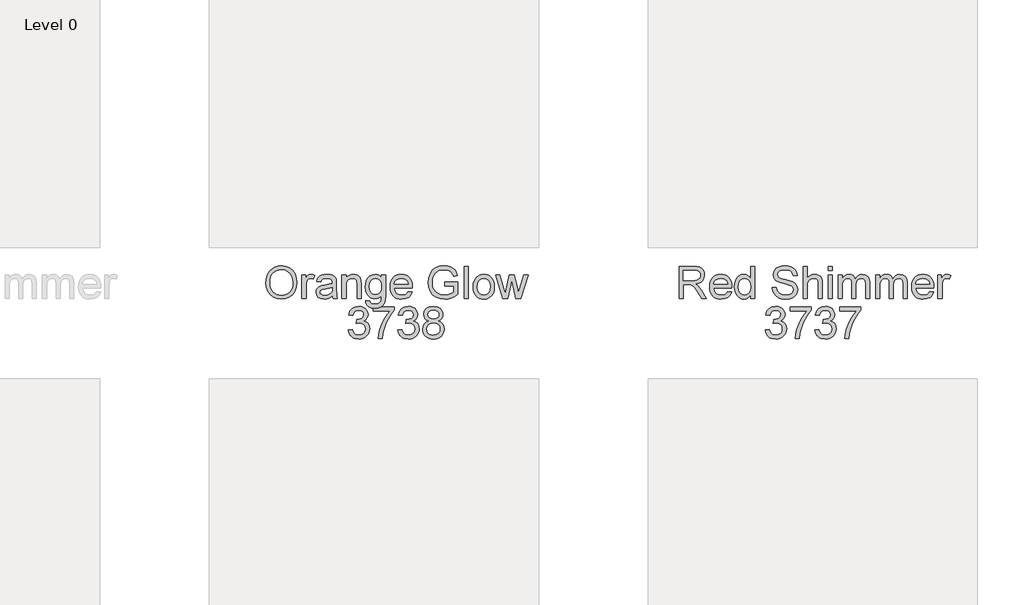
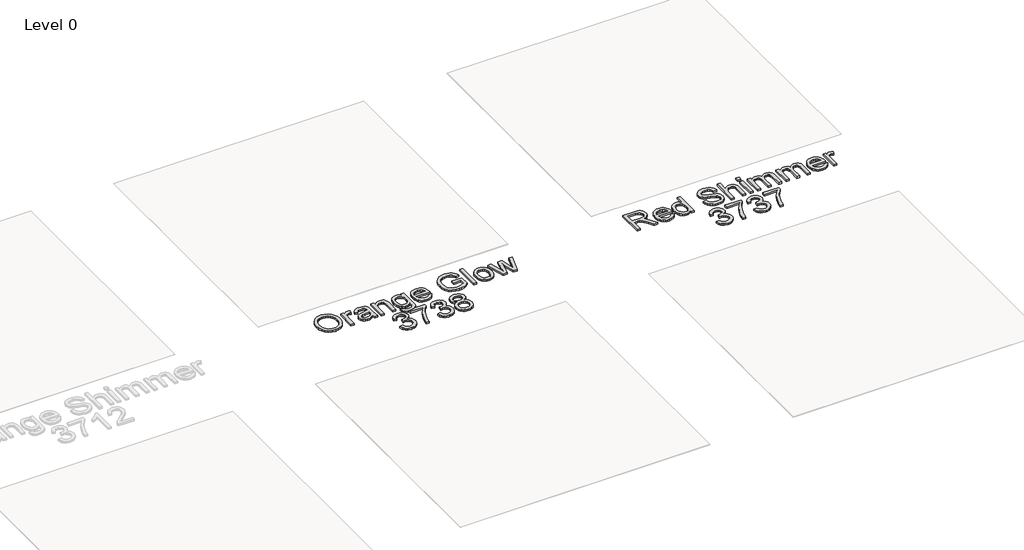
# One storey, part 14 of 14: 2 proxies.
"""IFC4 building model written with IfcOpenShell, lengths in millimetres."""

import ifcopenshell
import ifcopenshell.guid

model = None  # the IFC model being written
_history = None  # IfcOwnerHistory: only IFC2X3 demands one
_inside = {}  # id of a spatial element -> (the spatial element, [elements in it])
_under = {}  # id of a project, library or spatial element -> (it, [spatial elements below it])
_declared = {}  # id of a project -> (the project, [libraries it declares])
_typed = {}  # id of a type object -> (the type object, [elements of that type])
_made_of = {}  # id of a material, layer set ... -> (it, [elements and type objects made of it])


def new_model(schema):
    """Start an empty IFC model of exactly this schema.

    Asked for "IFC4X3", IfcOpenShell would pick the latest addendum, in which some entities
    have other attributes; the version numbers below select the first issue.
    IFC2X3 requires an IfcOwnerHistory on every rooted entity: one is made here for all.
    """
    global model, _history
    if schema == "IFC4X3":
        model = ifcopenshell.file(schema_version=(4, 3, 0, 0))
    else:
        model = ifcopenshell.file(schema=schema)
    _inside.clear()
    _under.clear()
    _declared.clear()
    _typed.clear()
    _made_of.clear()
    _history = None
    if model.schema == "IFC2X3":
        org = make("IfcOrganization", Name="unknown")
        user = make(
            "IfcPersonAndOrganization",
            ThePerson=make("IfcPerson", FamilyName="unknown"),
            TheOrganization=org,
        )
        app = make(
            "IfcApplication",
            ApplicationDeveloper=org,
            Version="unknown",
            ApplicationFullName="unknown",
            ApplicationIdentifier="unknown",
        )
        _history = make(
            "IfcOwnerHistory",
            OwningUser=user,
            OwningApplication=app,
            ChangeAction="ADDED",
            CreationDate=0,
        )
    return model


def make(cls, **values):
    """One entity of the class cls with the attributes given. An attribute that is None is left unset."""
    return model.create_entity(
        cls, **{name: value for name, value in values.items() if value is not None}
    )


def rooted(cls, **values):
    """An entity with a GlobalId (a new one), such as an element, a storey or a relation."""
    return make(cls, GlobalId=ifcopenshell.guid.new(), OwnerHistory=_history, **values)


def si_unit(unit_type, name, prefix=None):
    """IfcSIUnit, for example si_unit("LENGTHUNIT", "METRE", prefix="MILLI")."""
    return make("IfcSIUnit", UnitType=unit_type, Prefix=prefix, Name=name)


def assignment(units):
    """IfcUnitAssignment: the units of a project."""
    return None if units is None else make("IfcUnitAssignment", Units=units)


def point(xyz):
    """IfcCartesianPoint."""
    return None if xyz is None else make("IfcCartesianPoint", Coordinates=xyz)


def direction(xyz):
    """IfcDirection."""
    return None if xyz is None else make("IfcDirection", DirectionRatios=xyz)


def frame(location, z_axis=None, x_axis=None):
    """IfcAxis2Placement3D, a coordinate frame: its origin and axes. An axis left out is left unset."""
    return make(
        "IfcAxis2Placement3D",
        Location=point(location),
        Axis=direction(z_axis),
        RefDirection=direction(x_axis),
    )


def origin():
    """The frame at (0, 0, 0) with its axes left unset."""
    return frame((0.0, 0.0, 0.0))


def origin_with_axes():
    """The frame at (0, 0, 0) with the z axis (0, 0, 1) and the x axis (1, 0, 0) written out."""
    return frame((0.0, 0.0, 0.0), z_axis=(0.0, 0.0, 1.0), x_axis=(1.0, 0.0, 0.0))


def place(relative_to, where):
    """IfcLocalPlacement: puts the frame where relative to a parent placement (None: the world)."""
    return make(
        "IfcLocalPlacement", PlacementRelTo=relative_to, RelativePlacement=where
    )


def context(
    kind, dimensions, precision=None, world=None, true_north=None, identifier=None
):
    """IfcGeometricRepresentationContext, for example the 3D "Model" context."""
    return make(
        "IfcGeometricRepresentationContext",
        ContextIdentifier=identifier,
        ContextType=kind,
        CoordinateSpaceDimension=dimensions,
        Precision=precision,
        WorldCoordinateSystem=world,
        TrueNorth=true_north,
    )


def project(units=None, contexts=None):
    """IfcProject with its units and contexts."""
    return rooted(
        "IfcProject",
        Name="project",
        RepresentationContexts=contexts,
        UnitsInContext=assignment(units),
    )


def spatial(cls, under=None, at=None, **own):
    """A site, building, storey or space (cls), placed at a placement, below another one or the project."""
    s = rooted(cls, ObjectPlacement=at, **own)
    if under is not None:
        _under.setdefault(under.id(), (under, []))[1].append(s)
    return s


def polyline(points):
    """IfcPolyline through the points."""
    return make("IfcPolyline", Points=[point(p) for p in points])


def outline(outer, holes=None, kind="AREA"):
    """IfcArbitraryClosedProfileDef: a profile drawn as a closed curve; with holes, ...WithVoids."""
    if holes is None:
        return make("IfcArbitraryClosedProfileDef", ProfileType=kind, OuterCurve=outer)
    return make(
        "IfcArbitraryProfileDefWithVoids",
        ProfileType=kind,
        OuterCurve=outer,
        InnerCurves=holes,
    )


def extrude(swept, where, along, depth):
    """IfcExtrudedAreaSolid: the profile swept, set in the frame where, extruded along a direction by depth."""
    return make(
        "IfcExtrudedAreaSolid",
        SweptArea=swept,
        Position=where,
        ExtrudedDirection=direction(along),
        Depth=depth,
    )


def shape(context_of_items, identifier, shape_type, items):
    """IfcShapeRepresentation: the items that make up one representation, for example the "Body"."""
    return make(
        "IfcShapeRepresentation",
        ContextOfItems=context_of_items,
        RepresentationIdentifier=identifier,
        RepresentationType=shape_type,
        Items=items,
    )


def made_of(thing, what):
    """Note that an element or type object is made of a material, layer set ...; save() writes the relation."""
    if what is not None:
        _made_of.setdefault(what.id(), (what, []))[1].append(thing)
    return thing


def element(
    cls,
    number,
    at=None,
    inside=None,
    cuts=None,
    type_object=None,
    material=None,
    context=None,
    identifier="Body",
    shape_type=None,
    held_by="IfcProductDefinitionShape",
    body=None,
    shapes=None,
    **own,
):
    """One element of the class cls, such as IfcWall. Its Tag is "e" and its number.

    at: its placement. inside: the storey or other place that contains it. cuts: it is an
    opening in that element (IfcRelVoidsElement). A single representation is given by context,
    identifier, shape_type and body (its items); several are given by shapes. held_by: the class
    of the entity that holds the representations. save() writes the other relations.
    """
    e = rooted(cls, Tag="e%d" % number, ObjectPlacement=at, **own)
    if body is not None:
        shapes = [shape(context, identifier, shape_type, body)]
    if shapes is not None:
        e.Representation = make(held_by, Representations=shapes)
    if inside is not None:
        _inside.setdefault(inside.id(), (inside, []))[1].append(e)
    if cuts is not None:
        rooted(
            "IfcRelVoidsElement", RelatingBuildingElement=cuts, RelatedOpeningElement=e
        )
    if type_object is not None:
        _typed.setdefault(type_object.id(), (type_object, []))[1].append(e)
    return made_of(e, material)


def aggregate(whole, parts):
    """IfcRelAggregates: a whole, such as a stair, and the parts it consists of."""
    return rooted("IfcRelAggregates", RelatingObject=whole, RelatedObjects=parts)


def save(model, path):
    """Write the relations noted so far, then the file.

    IfcRelAggregates (storeys below a building ...), IfcRelContainedInSpatialStructure (elements
    in a storey), IfcRelDefinesByType, IfcRelAssociatesMaterial and IfcRelDeclares: one each for
    every whole, place, type object, material and project.
    """
    for whole, parts in _under.values():
        aggregate(whole, parts)
    for where, things in _inside.values():
        rooted(
            "IfcRelContainedInSpatialStructure",
            RelatedElements=things,
            RelatingStructure=where,
        )
    for kind, things in _typed.values():
        rooted("IfcRelDefinesByType", RelatedObjects=things, RelatingType=kind)
    for what, things in _made_of.values():
        rooted("IfcRelAssociatesMaterial", RelatedObjects=things, RelatingMaterial=what)
    for by, libraries in _declared.values():
        rooted("IfcRelDeclares", RelatingContext=by, RelatedDefinitions=libraries)
    model.write(path)


model = new_model("IFC4")

# Units and contexts
model_context = context("Model", 3, world=origin())
ifc_project = project(units=[si_unit("LENGTHUNIT", "METRE", prefix="MILLI")], contexts=[model_context])

# Site, building, storey
site = spatial("IfcSite", under=ifc_project)
building = spatial("IfcBuilding", under=site)
storey = spatial("IfcBuildingStorey", under=building, Name="Level 0", Elevation=0.0)

# Proxies
placement = place(None, origin())
element("IfcBuildingElementProxy", 1, Name="300mm Arial", ObjectType="300mm Arial", at=placement, inside=storey, context=model_context, shape_type="SweptSolid", body=[
    extrude(outline(polyline([(3063.8093506, 2206.6250591), (3066.2702881, 2241.2719942), (3073.6531006, 2271.9435687), (3085.9577881, 2298.6397826), (3103.1843506, 2321.360636), (3124.3006366, 2339.5021624), (3148.2744948, 2352.4603956), (3175.1059251, 2360.2353355), (3204.7949275, 2362.8269821), (3243.5389179, 2357.9591937), (3278.2805044, 2343.3558283), (3307.1266583, 2320.0445302), (3328.1843506, 2289.0529437), (3341.0569467, 2251.8774629), (3345.3478121, 2210.0144821), (3340.8315861, 2167.5926071), (3327.2829083, 2129.8942898), (3305.4499756, 2098.8486168), (3276.0809852, 2076.3846745), (3241.6368746, 2062.7548668), (3204.5785813, 2058.2115975), (3165.239639, 2063.2326312), (3130.2997352, 2078.2957321), (3101.5256967, 2102.0397225), (3080.6843506, 2133.1034245), (3068.0281006, 2168.845612), (3063.8093506, 2206.6250591)]), holes=[polyline([(3100.7324275, 2206.2644821), (3102.5781306, 2181.7858163), (3108.11524, 2160.0565495), (3117.3437556, 2141.0766817), (3130.2636775, 2124.8462129), (3145.9690561, 2111.8474148), (3163.5539419, 2102.5625591), (3183.0183349, 2096.9916456), (3204.3622352, 2095.1346745), (3226.0712196, 2097.0096745), (3245.7654804, 2102.6346745), (3263.4450176, 2112.0096745), (3279.1098313, 2125.1346745), (3291.9351018, 2141.7076913), (3301.0960092, 2161.4267418), (3306.5925537, 2184.2918259), (3308.4247352, 2210.3029437), (3305.287716, 2242.9892418), (3295.8766583, 2271.2404437), (3280.4349515, 2294.34441), (3259.2059852, 2311.5890014), (3233.5960092, 2322.3251793), (3205.0112736, 2325.9039052), (3184.4088097, 2324.1798968), (3165.2937256, 2319.0078716), (3147.6660212, 2310.3878295), (3131.5256967, 2298.3197706), (3118.0536414, 2282.2222646), (3108.4307448, 2261.5138812), (3102.6570068, 2236.1946204), (3100.7324275, 2206.2644821)])]), origin_with_axes(), (0.0, 0.0, 1.0), 20.0),
    extrude(outline(polyline([(3391.5016583, 2062.8269821), (3391.5016583, 2279.7500591), (3423.8093506, 2279.7500591), (3423.8093506, 2247.6587129), (3435.7444467, 2266.2644821), (3446.7420429, 2277.2260206), (3457.7756967, 2282.5805879), (3469.818966, 2284.3654437), (3488.208389, 2281.516886), (3506.8862736, 2272.9712129), (3494.5545429, 2239.8702514), (3481.5737736, 2245.5493379), (3468.5930044, 2247.4423668), (3457.568365, 2245.6214533), (3447.7156006, 2240.1587129), (3439.755865, 2231.4688091), (3434.4103121, 2219.9664052), (3429.9211294, 2199.3414052), (3428.4247352, 2176.8414052), (3428.4247352, 2062.8269821), (3391.5016583, 2062.8269821)])), origin_with_axes(), (0.0, 0.0, 1.0), 20.0),
    extrude(outline(polyline([(3668.4247352, 2090.5192898), (3650.7835092, 2075.3930879), (3632.6194467, 2065.4952514), (3613.5178842, 2060.032511), (3593.0641583, 2058.2115975), (3562.2077881, 2062.5926071), (3539.4463698, 2075.735636), (3525.4109131, 2095.6935687), (3520.7324275, 2120.5192898), (3522.4992544, 2135.8257802), (3527.7997352, 2149.7260206), (3535.9758169, 2161.6250591), (3546.3694467, 2170.9279437), (3572.2228121, 2183.0433283), (3604.1699275, 2188.5962129), (3641.9223313, 2194.4375591), (3668.208389, 2201.2885206), (3668.4247352, 2209.5096745), (3665.8826679, 2225.9880398), (3658.256466, 2236.7692898), (3641.2011775, 2244.7740975), (3617.4391583, 2247.4423668), (3595.443966, 2245.6665254), (3580.083389, 2240.3390014), (3569.6086294, 2230.486237), (3562.270889, 2215.1346745), (3525.3478121, 2219.7500591), (3531.7570669, 2239.9423668), (3541.3213698, 2255.8077514), (3554.9331486, 2267.9411648), (3573.4848313, 2276.9375591), (3596.1741342, 2282.5084725), (3622.1987736, 2284.3654437), (3647.1597111, 2282.7248187), (3666.9463698, 2277.8029437), (3681.86524, 2270.4021023), (3692.2228121, 2261.3245783), (3699.0918025, 2250.1016216), (3703.5449275, 2236.2644821), (3705.3478121, 2203.9567898), (3705.3478121, 2158.0192898), (3707.2228121, 2093.8726552), (3714.5785813, 2062.8269821), (3677.6555044, 2062.8269821), (3668.4247352, 2090.5192898)]), holes=[polyline([(3668.4247352, 2164.3654437), (3608.8574275, 2153.0433283), (3577.0906006, 2147.0577514), (3562.7035813, 2137.3221745), (3557.6555044, 2123.1154437), (3560.4049035, 2112.1358764), (3568.6531006, 2103.1394821), (3582.2198073, 2097.1358764), (3600.9247352, 2095.1346745), (3620.756466, 2097.3432081), (3638.2805044, 2103.9688091), (3652.4872352, 2113.7314293), (3662.3670429, 2125.3510206), (3666.7480525, 2137.3221745), (3668.208389, 2153.9087129), (3668.4247352, 2164.3654437)])]), origin_with_axes(), (0.0, 0.0, 1.0), 20.0),
    extrude(outline(polyline([(3756.1170429, 2062.8269821), (3756.1170429, 2279.7500591), (3793.0401198, 2279.7500591), (3793.0401198, 2249.4615975), (3805.8676438, 2264.7320302), (3821.2732929, 2275.6394821), (3839.2570669, 2282.1839533), (3859.818966, 2284.3654437), (3878.0190861, 2282.6076312), (3894.6867544, 2277.3341937), (3908.5869948, 2269.2031841), (3918.4848313, 2258.8726552), (3929.5545429, 2231.7212129), (3931.5016583, 2196.0240975), (3931.5016583, 2062.8269821), (3894.5785813, 2062.8269821), (3894.5785813, 2191.048136), (3890.3237736, 2223.7164052), (3884.4373554, 2233.4429677), (3875.287716, 2240.9880398), (3863.5599515, 2245.828785), (3849.9391583, 2247.4423668), (3828.3135573, 2243.8185687), (3809.8790621, 2232.9471745), (3802.5120248, 2224.0724749), (3797.2498554, 2211.9435687), (3793.0401198, 2177.923136), (3793.0401198, 2062.8269821), (3756.1170429, 2062.8269821)])), origin_with_axes(), (0.0, 0.0, 1.0), 20.0),
    extrude(outline(polyline([(3973.0401198, 2044.3654437), (4009.9631967, 2039.7500591), (4014.037716, 2028.2115975), (4021.9343506, 2020.2789052), (4037.4571871, 2014.1130398), (4057.7756967, 2012.0577514), (4079.4463698, 2014.3834725), (4095.5641583, 2021.360636), (4106.7420429, 2032.5385206), (4113.5930044, 2047.4664052), (4116.1170429, 2090.5192898), (4103.8303842, 2078.4039052), (4090.1194467, 2069.7500591), (4074.9842304, 2064.5577514), (4058.4247352, 2062.8269821), (4038.1805946, 2064.8417057), (4020.3568265, 2070.8858764), (4004.9534311, 2080.9594942), (3991.9704083, 2095.0625591), (3981.6691763, 2111.9826312), (3974.3111535, 2130.5072706), (3968.4247352, 2172.3702514), (3971.0659611, 2202.1809485), (3978.989639, 2229.5938091), (3991.9163217, 2252.8239773), (4009.5665621, 2270.0865975), (4031.3363938, 2280.7957321), (4056.6218506, 2284.3654437), (4073.888978, 2282.3462129), (4089.5605525, 2276.2885206), (4103.6365741, 2266.1923668), (4116.1170429, 2252.0577514), (4116.1170429, 2279.7500591), (4153.0401198, 2279.7500591), (4153.0401198, 2092.4664052), (4150.5160813, 2049.2242177), (4142.943966, 2020.7476552), (4129.9000958, 2001.8624389), (4110.9607929, 1987.3942898), (4086.5407208, 1978.1995783), (4057.0545429, 1975.1346745), (4022.7005765, 1979.4525831), (3995.6482929, 1992.4063091), (3985.4597412, 2002.130618), (3978.2955285, 2014.03191), (3974.1556547, 2028.1101853), (3973.0401198, 2044.3654437)]), holes=[polyline([(4005.3478121, 2174.8942898), (4009.287115, 2141.0271023), (4021.1050236, 2117.7428475), (4038.8724515, 2104.2482562), (4060.6603121, 2099.7500591), (4082.2859131, 2104.2212129), (4100.1434852, 2117.6346745), (4112.1236535, 2140.6214533), (4116.1170429, 2173.8125591), (4112.006466, 2205.8227754), (4099.6747352, 2228.8726552), (4081.5557448, 2242.7999389), (4060.083389, 2247.4423668), (4038.9986535, 2242.8720543), (4021.3213698, 2229.1611168), (4009.3412015, 2206.453785), (4005.3478121, 2174.8942898)])]), origin_with_axes(), (0.0, 0.0, 1.0), 20.0),
    extrude(outline(polyline([(4360.2997352, 2127.4423668), (4396.5016583, 2122.8269821), (4383.4577881, 2095.5493379), (4362.6434852, 2075.1587129), (4334.5274996, 2062.4483764), (4299.5785813, 2058.2115975), (4276.6684251, 2060.0392718), (4256.255264, 2065.5222946), (4238.3390982, 2074.660666), (4222.9199275, 2087.454386), (4210.5205886, 2103.5473848), (4201.6639179, 2122.5835927), (4196.3499155, 2144.5630098), (4194.5785813, 2169.485636), (4196.3679443, 2195.2533644), (4201.7360333, 2217.9652033), (4210.6828482, 2237.6211528), (4223.208389, 2254.2212129), (4238.5869948, 2267.4093139), (4256.0930044, 2276.829386), (4275.7264179, 2282.4814293), (4297.4872352, 2284.3654437), (4318.5471811, 2282.4859365), (4337.5924035, 2276.8474148), (4354.6229023, 2267.4498788), (4369.6386775, 2254.2933283), (4381.8960393, 2237.7293259), (4390.6512977, 2218.1094341), (4395.9044527, 2195.4336528), (4397.6555044, 2169.7019821), (4397.4391583, 2159.7500591), (4231.5016583, 2159.7500591), (4237.8928842, 2132.1118379), (4252.739639, 2111.7933283), (4274.1669227, 2099.2993379), (4300.2997352, 2095.1346745), (4319.9511775, 2097.063761), (4336.5016583, 2102.8510206), (4349.9511775, 2112.8570302), (4360.2997352, 2127.4423668)]), holes=[polyline([(4231.5016583, 2196.673136), (4360.7324275, 2196.673136), (4355.7384371, 2216.1803475), (4345.9487736, 2230.1346745), (4324.4223313, 2243.1154437), (4297.3430044, 2247.4423668), (4272.4541823, 2243.9898427), (4251.8742544, 2233.6322706), (4237.568365, 2217.4874389), (4231.5016583, 2196.673136)])]), origin_with_axes(), (0.0, 0.0, 1.0), 20.0),
    extrude(outline(polyline([(4693.0401198, 2178.2115975), (4693.0401198, 2215.1346745), (4813.0401198, 2215.1346745), (4813.0401198, 2104.7260206), (4783.8784611, 2084.4435687), (4753.7973313, 2069.8942898), (4722.8688458, 2061.1322706), (4691.1651198, 2058.2115975), (4649.7438458, 2062.8540254), (4612.3069467, 2076.7813091), (4581.2071871, 2099.5066696), (4558.7973313, 2130.5433283), (4545.2486535, 2167.7728956), (4540.7324275, 2209.0769821), (4545.2306246, 2250.6785446), (4558.725216, 2289.3774629), (4580.6573073, 2321.8384004), (4610.4680044, 2344.7260206), (4646.7781006, 2358.3017418), (4688.208389, 2362.8269821), (4718.6230525, 2360.203785), (4745.9728121, 2352.3341937), (4769.0046631, 2339.7861168), (4786.4656006, 2323.1274629), (4799.3832688, 2301.5559485), (4808.7853121, 2274.2692898), (4774.7468506, 2264.6779437), (4767.1476919, 2284.1400831), (4757.9079083, 2298.8245783), (4745.6843506, 2309.8942898), (4729.1338698, 2318.5120783), (4709.4012977, 2324.0559485), (4687.631466, 2325.9039052), (4662.1476919, 2323.9117177), (4640.3598313, 2317.9351552), (4622.349014, 2308.7224148), (4608.1963698, 2297.0216937), (4589.193966, 2268.5721745), (4580.5401198, 2240.6995783), (4577.6555044, 2210.5914052), (4581.1260573, 2175.28191), (4591.537716, 2146.2284245), (4608.5749756, 2123.6382802), (4631.9223313, 2107.7188091), (4659.2450477, 2098.2807081), (4688.208389, 2095.1346745), (4713.7823073, 2097.5054677), (4738.725216, 2104.6178475), (4760.3868746, 2114.4165254), (4776.1170429, 2124.8462129), (4776.1170429, 2178.2115975), (4693.0401198, 2178.2115975)])), origin_with_axes(), (0.0, 0.0, 1.0), 20.0),
    extrude(outline(polyline([(4868.4247352, 2062.8269821), (4868.4247352, 2358.2115975), (4905.3478121, 2358.2115975), (4905.3478121, 2062.8269821), (4868.4247352, 2062.8269821)])), origin_with_axes(), (0.0, 0.0, 1.0), 20.0),
    extrude(outline(polyline([(4951.5016583, 2171.2885206), (4953.498353, 2199.3819701), (4959.4884371, 2223.5902033), (4969.4719107, 2243.9132201), (4983.4487736, 2260.3510206), (4997.5202881, 2270.8573307), (5013.052139, 2278.3618379), (5030.0443265, 2282.8645422), (5048.4968506, 2284.3654437), (5068.8671931, 2282.5377694), (5087.2859131, 2277.0547466), (5103.7530104, 2267.9163752), (5118.2684852, 2255.1226552), (5130.1156907, 2239.106279), (5138.5779804, 2220.2999389), (5143.6553542, 2198.7036348), (5145.3478121, 2174.3173668), (5142.3550236, 2137.0156841), (5133.3766583, 2108.6202514), (5118.6741342, 2087.3552273), (5098.5088698, 2071.4447706), (5074.5575477, 2061.5198908), (5048.4968506, 2058.2115975), (5027.8290321, 2060.032511), (5009.2390381, 2065.4952514), (4992.7268686, 2074.5998187), (4978.2925236, 2087.3462129), (4966.57152, 2103.5180879), (4958.1993746, 2122.8990975), (4953.1760873, 2145.4892418), (4951.5016583, 2171.2885206)]), holes=[polyline([(4988.4247352, 2171.360636), (4992.6975717, 2137.9441696), (5005.5160813, 2114.1370783), (5024.8069467, 2099.8852754), (5048.4968506, 2095.1346745), (5072.0785813, 2099.9123187), (5091.333389, 2114.2452514), (5104.1518986, 2138.3678475), (5108.4247352, 2172.5144821), (5104.1248554, 2204.9573908), (5091.225216, 2228.4399629), (5071.943365, 2242.6917658), (5048.4968506, 2247.4423668), (5024.8069467, 2242.7097946), (5005.5160813, 2228.5120783), (4992.6975717, 2204.7590735), (4988.4247352, 2171.360636)])]), origin_with_axes(), (0.0, 0.0, 1.0), 20.0),
    extrude(outline(polyline([(5222.8718506, 2062.8269821), (5156.8862736, 2279.7500591), (5195.2516583, 2279.7500591), (5232.6795429, 2153.1875591), (5243.8574275, 2107.9712129), (5253.0160813, 2151.5289052), (5282.7997352, 2279.7500591), (5326.7901198, 2279.7500591), (5356.4295429, 2151.8894821), (5364.5785813, 2112.4423668), (5376.2612736, 2154.0529437), (5413.7612736, 2279.7500591), (5452.270889, 2279.7500591), (5385.7805044, 2062.8269821), (5341.1410813, 2062.8269821), (5312.7997352, 2190.0385206), (5304.5785813, 2229.7019821), (5268.0160813, 2062.8269821), (5222.8718506, 2062.8269821)])), origin_with_axes(), (0.0, 0.0, 1.0), 20.0),
    extrude(outline(polyline([(3813.8093506, 1776.673136), (3850.7324275, 1781.2885206), (3858.9986535, 1758.0853956), (3871.1050236, 1742.4183283), (3887.64649, 1733.4940495), (3909.2180044, 1730.5192898), (3934.5305044, 1734.6118379), (3954.0737736, 1746.8894821), (3966.567764, 1765.2067898), (3970.7324275, 1787.4183283), (3966.6038217, 1808.5030639), (3954.2180044, 1825.6034245), (3935.4680044, 1836.9345543), (3912.2468506, 1840.7115975), (3886.3574275, 1836.673136), (3890.4680044, 1873.5962129), (3896.381466, 1873.1635206), (3918.5028602, 1875.813761), (3938.2805044, 1883.7644821), (3952.2348313, 1897.2140014), (3956.8862736, 1916.360636), (3953.5148794, 1932.3071504), (3943.4006967, 1945.2428475), (3927.9680044, 1953.8155639), (3908.6410813, 1956.673136), (3889.2781006, 1953.7885206), (3873.4487736, 1945.1346745), (3861.8922833, 1930.7115975), (3855.3478121, 1910.5192898), (3818.4247352, 1915.1346745), (3829.2961294, 1948.2897225), (3848.6410813, 1973.0433283), (3875.1074275, 1988.4579918), (3907.3430044, 1993.5962129), (3930.5551438, 1991.06316), (3951.8742544, 1983.4640014), (3969.849014, 1971.4748187), (3983.0281006, 1955.7716937), (3991.1140381, 1937.6797466), (3993.8093506, 1918.5240975), (3991.2492544, 1900.6755398), (3983.568966, 1884.485636), (3970.8766583, 1870.6935687), (3953.2805044, 1860.0385206), (3976.3934852, 1850.6995783), (3993.520889, 1834.798136), (4004.1218506, 1813.1995783), (4007.6555044, 1786.7692898), (4005.8886775, 1768.0373187), (4000.5881967, 1750.7837129), (3991.7540621, 1735.0084725), (3979.3862736, 1720.7115975), (3964.3186655, 1708.8486168), (3947.3850717, 1700.3750591), (3928.5854924, 1695.2909245), (3907.9199275, 1693.5962129), (3872.2228121, 1699.3834725), (3856.8622352, 1706.6175471), (3843.1603121, 1716.7452514), (3831.6714299, 1729.1716336), (3822.9499756, 1743.3017418), (3813.8093506, 1776.673136)])), origin_with_axes(), (0.0, 0.0, 1.0), 20.0),
    extrude(outline(polyline([(4039.9631967, 1952.0577514), (4039.9631967, 1988.9808283), (4233.8093506, 1988.9808283), (4233.8093506, 1959.1250591), (4206.1801438, 1924.158112), (4178.8213698, 1879.6899629), (4154.6897592, 1829.7771023), (4136.7420429, 1778.4760206), (4127.943966, 1740.0926071), (4123.0401198, 1698.2115975), (4086.1170429, 1698.2115975), (4090.1104323, 1736.2704918), (4100.7925236, 1781.5048668), (4117.8748554, 1829.4525831), (4141.068966, 1875.6515014), (4168.1482929, 1917.4153235), (4196.8862736, 1952.0577514), (4039.9631967, 1952.0577514)])), origin_with_axes(), (0.0, 0.0, 1.0), 20.0),
    extrude(outline(polyline([(4266.1170429, 1776.673136), (4303.0401198, 1781.2885206), (4311.3063458, 1758.0853956), (4323.412716, 1742.4183283), (4339.9541823, 1733.4940495), (4361.5256967, 1730.5192898), (4386.8381967, 1734.6118379), (4406.381466, 1746.8894821), (4418.8754563, 1765.2067898), (4423.0401198, 1787.4183283), (4418.911514, 1808.5030639), (4406.5256967, 1825.6034245), (4387.7756967, 1836.9345543), (4364.5545429, 1840.7115975), (4338.6651198, 1836.673136), (4342.7756967, 1873.5962129), (4348.6891583, 1873.1635206), (4370.8105525, 1875.813761), (4390.5881967, 1883.7644821), (4404.5425236, 1897.2140014), (4409.193966, 1916.360636), (4405.8225717, 1932.3071504), (4395.708389, 1945.2428475), (4380.2756967, 1953.8155639), (4360.9487736, 1956.673136), (4341.5857929, 1953.7885206), (4325.756466, 1945.1346745), (4314.1999756, 1930.7115975), (4307.6555044, 1910.5192898), (4270.7324275, 1915.1346745), (4281.6038217, 1948.2897225), (4300.9487736, 1973.0433283), (4327.4151198, 1988.4579918), (4359.6506967, 1993.5962129), (4382.8628361, 1991.06316), (4404.1819467, 1983.4640014), (4422.1567063, 1971.4748187), (4435.3357929, 1955.7716937), (4443.4217304, 1937.6797466), (4446.1170429, 1918.5240975), (4443.5569467, 1900.6755398), (4435.8766583, 1884.485636), (4423.1843506, 1870.6935687), (4405.5881967, 1860.0385206), (4428.7011775, 1850.6995783), (4445.8285813, 1834.798136), (4456.4295429, 1813.1995783), (4459.9631967, 1786.7692898), (4458.1963698, 1768.0373187), (4452.895889, 1750.7837129), (4444.0617544, 1735.0084725), (4431.693966, 1720.7115975), (4416.6263578, 1708.8486168), (4399.692764, 1700.3750591), (4380.8931847, 1695.2909245), (4360.2276198, 1693.5962129), (4324.5305044, 1699.3834725), (4309.1699275, 1706.6175471), (4295.4680044, 1716.7452514), (4283.9791222, 1729.1716336), (4275.2576679, 1743.3017418), (4266.1170429, 1776.673136)])), origin_with_axes(), (0.0, 0.0, 1.0), 20.0),
    extrude(outline(polyline([(4546.068966, 1860.9039052), (4526.3003361, 1870.6394821), (4512.427139, 1883.8365975), (4504.2330285, 1900.2248187), (4501.5016583, 1919.5337129), (4507.4511775, 1948.3978956), (4525.2997352, 1972.2500591), (4538.185853, 1981.5890014), (4553.0461294, 1988.2596745), (4588.6891583, 1993.5962129), (4624.5485333, 1988.1334725), (4639.5710693, 1981.3050471), (4652.6555044, 1971.7452514), (4670.8285813, 1947.5144821), (4675.3718506, 1933.6142418), (4676.8862736, 1918.5240975), (4674.1909611, 1899.8371985), (4666.1050236, 1883.7284245), (4652.5383169, 1870.6124389), (4633.4006967, 1860.9039052), (4656.1260573, 1849.1941696), (4672.6675236, 1831.9495783), (4682.7546631, 1809.9994581), (4686.1170429, 1784.173136), (4684.4493746, 1765.7566696), (4679.4463698, 1748.8726552), (4671.1080285, 1733.5210927), (4659.4343506, 1719.7019821), (4645.0383169, 1708.2807081), (4628.5329083, 1700.1226552), (4609.9181246, 1695.2278235), (4589.193966, 1693.5962129), (4568.4698073, 1695.2345843), (4549.8550236, 1700.1496985), (4533.349615, 1708.3415555), (4518.9535813, 1719.8101552), (4507.2799035, 1733.7261708), (4498.9415621, 1749.2602754), (4493.9385573, 1766.4124689), (4492.270889, 1785.1827514), (4495.7684852, 1812.0096745), (4506.2612736, 1834.0769821), (4523.208389, 1850.6274629), (4546.068966, 1860.9039052)]), holes=[polyline([(4538.4247352, 1918.4519821), (4541.6969708, 1902.3341937), (4551.5136775, 1889.4615975), (4567.5863938, 1881.0240975), (4589.6266583, 1878.2115975), (4611.1531006, 1881.0060687), (4626.9824275, 1889.3894821), (4636.7180044, 1901.829386), (4639.9631967, 1916.7933283), (4636.6098313, 1932.3251793), (4626.5497352, 1945.1707321), (4610.5040621, 1953.797535), (4589.193966, 1956.673136), (4567.7486535, 1953.860636), (4551.7300236, 1945.423136), (4541.7510573, 1933.0553475), (4538.4247352, 1918.4519821)]), polyline([(4529.193966, 1786.4808283), (4535.3598313, 1758.6803475), (4543.89649, 1746.7542658), (4557.1747352, 1737.8750591), (4573.0761775, 1732.3582321), (4589.4824275, 1730.5192898), (4614.614639, 1734.3864773), (4633.4728121, 1745.9880398), (4645.2636775, 1763.5571504), (4649.193966, 1785.3269821), (4645.1374756, 1807.4664052), (4632.9680044, 1825.423136), (4613.677139, 1837.3221745), (4588.256466, 1841.2885206), (4563.4758169, 1837.376261), (4544.8069467, 1825.6394821), (4533.0972111, 1808.0252995), (4529.193966, 1786.4808283)])]), origin_with_axes(), (0.0, 0.0, 1.0), 20.0),
])
element("IfcBuildingElementProxy", 2, Name="300mm Arial", ObjectType="300mm Arial", at=placement, inside=storey, context=model_context, shape_type="SweptSolid", body=[
    extrude(outline(polyline([(6829.193966, 2062.8269821), (6829.193966, 2358.2115975), (6956.4776198, 2358.2115975), (6990.6873554, 2356.21941), (7015.5761775, 2350.2428475), (7033.7672833, 2339.2091937), (7047.8838698, 2322.0457321), (7056.943365, 2300.7626793), (7059.9631967, 2277.3702514), (7054.9601919, 2248.2716937), (7039.9511775, 2224.1490975), (7028.5817364, 2214.3188692), (7014.4854323, 2206.4627995), (6978.1122352, 2196.673136), (6999.0978121, 2180.8798668), (7029.0256967, 2142.8750591), (7078.2805044, 2062.8269821), (7035.3718506, 2062.8269821), (6996.9343506, 2124.0529437), (6969.1699275, 2164.5817898), (6949.662716, 2183.7284245), (6932.1026198, 2190.7596745), (6910.6843506, 2192.0577514), (6866.1170429, 2192.0577514), (6866.1170429, 2062.8269821), (6829.193966, 2062.8269821)]), holes=[polyline([(6866.1170429, 2228.9808283), (6948.7612736, 2228.9808283), (6972.4962496, 2230.2879196), (6990.912716, 2234.2091937), (7004.7768986, 2241.0060687), (7014.8550236, 2250.9399629), (7020.9938458, 2262.9561889), (7023.0401198, 2276.0000591), (7019.1368746, 2294.0108764), (7007.427139, 2308.5240975), (6987.2799035, 2318.0974148), (6958.0641583, 2321.2885206), (6866.1170429, 2321.2885206), (6866.1170429, 2228.9808283)])]), origin_with_axes(), (0.0, 0.0, 1.0), 20.0),
    extrude(outline(polyline([(7271.8381967, 2127.4423668), (7308.0401198, 2122.8269821), (7294.9962496, 2095.5493379), (7274.1819467, 2075.1587129), (7246.0659611, 2062.4483764), (7211.1170429, 2058.2115975), (7188.2068866, 2060.0392718), (7167.7937256, 2065.5222946), (7149.8775597, 2074.660666), (7134.458389, 2087.454386), (7122.0590501, 2103.5473848), (7113.2023794, 2122.5835927), (7107.888377, 2144.5630098), (7106.1170429, 2169.485636), (7107.9064059, 2195.2533644), (7113.2744948, 2217.9652033), (7122.2213097, 2237.6211528), (7134.7468506, 2254.2212129), (7150.1254563, 2267.4093139), (7167.631466, 2276.829386), (7187.2648794, 2282.4814293), (7209.0256967, 2284.3654437), (7230.0856426, 2282.4859365), (7249.130865, 2276.8474148), (7266.1613638, 2267.4498788), (7281.177139, 2254.2933283), (7293.4345008, 2237.7293259), (7302.1897592, 2218.1094341), (7307.4429143, 2195.4336528), (7309.193966, 2169.7019821), (7308.9776198, 2159.7500591), (7143.0401198, 2159.7500591), (7149.4313458, 2132.1118379), (7164.2781006, 2111.7933283), (7185.7053842, 2099.2993379), (7211.8381967, 2095.1346745), (7231.489639, 2097.063761), (7248.0401198, 2102.8510206), (7261.489639, 2112.8570302), (7271.8381967, 2127.4423668)]), holes=[polyline([(7143.0401198, 2196.673136), (7272.270889, 2196.673136), (7267.2768986, 2216.1803475), (7257.4872352, 2230.1346745), (7235.9607929, 2243.1154437), (7208.881466, 2247.4423668), (7183.9926438, 2243.9898427), (7163.412716, 2233.6322706), (7149.1068265, 2217.4874389), (7143.0401198, 2196.673136)])]), origin_with_axes(), (0.0, 0.0, 1.0), 20.0),
    extrude(outline(polyline([(7479.9631967, 2062.8269821), (7479.9631967, 2097.6587129), (7468.9160212, 2080.4005999), (7455.5341102, 2068.0733764), (7439.8174636, 2060.6770422), (7421.7660813, 2058.2115975), (7397.895889, 2061.7813091), (7376.0449275, 2072.4904437), (7357.5473313, 2089.5908043), (7343.7372352, 2112.3341937), (7335.1374756, 2139.8011408), (7332.270889, 2171.0721745), (7334.912115, 2201.9555879), (7342.8357929, 2229.8462129), (7356.0329083, 2253.157511), (7374.4944467, 2270.3029437), (7396.8231727, 2280.8498187), (7421.6218506, 2284.3654437), (7439.6867544, 2281.8504196), (7455.6603121, 2274.3053475), (7469.1999756, 2262.7398427), (7479.9631967, 2248.1635206), (7479.9631967, 2358.2115975), (7516.8862736, 2358.2115975), (7516.8862736, 2062.8269821), (7479.9631967, 2062.8269821)]), holes=[polyline([(7369.193966, 2171.2164052), (7373.3586294, 2137.8179677), (7385.8526198, 2114.0649629), (7404.0076679, 2099.8672466), (7425.1555044, 2095.1346745), (7446.2943265, 2099.6509004), (7463.989639, 2113.1995783), (7475.9698073, 2136.033112), (7479.9631967, 2168.4039052), (7475.8976919, 2203.7945302), (7463.7011775, 2228.3317898), (7445.5551438, 2242.6647225), (7423.6410813, 2247.4423668), (7402.2768986, 2242.8540254), (7384.770889, 2229.0890014), (7373.0881967, 2205.4441696), (7369.193966, 2171.2164052)])]), origin_with_axes(), (0.0, 0.0, 1.0), 20.0),
    extrude(outline(polyline([(7678.4247352, 2164.3654437), (7715.3478121, 2164.3654437), (7719.584591, 2143.87566), (7727.2468506, 2127.4063091), (7739.1999756, 2114.3353956), (7756.3093506, 2104.0409245), (7777.2228121, 2097.361237), (7800.5881967, 2095.1346745), (7821.1591102, 2096.8203716), (7839.1699275, 2101.8774629), (7853.7642785, 2109.8822706), (7864.0857929, 2120.4111168), (7870.224615, 2132.4994581), (7872.270889, 2145.1827514), (7870.7384371, 2157.5415254), (7866.1410813, 2168.2236168), (7856.802139, 2177.3371985), (7841.0449275, 2184.9904437), (7787.2829083, 2199.0890014), (7751.9914419, 2208.4189293), (7729.4103121, 2217.298136), (7711.0299035, 2229.720011), (7698.0040621, 2244.7740975), (7690.2426438, 2262.1358764), (7687.6555044, 2281.4808283), (7690.8556246, 2303.1064293), (7700.4559852, 2323.2716937), (7716.2041823, 2340.3630398), (7737.8478121, 2352.766886), (7763.8273794, 2360.3119581), (7792.583389, 2362.8269821), (7823.7372352, 2360.1947706), (7850.9968506, 2352.298136), (7873.3886775, 2339.2993379), (7889.9391583, 2321.360636), (7900.4139179, 2299.5998187), (7904.5785813, 2275.1346745), (7867.6555044, 2275.1346745), (7860.8766583, 2297.1659245), (7846.7420429, 2313.0673668), (7824.6567063, 2322.6947706), (7794.0256967, 2325.9039052), (7762.6735333, 2322.7308283), (7741.1651198, 2313.2115975), (7728.725216, 2299.2031841), (7724.5785813, 2282.5625591), (7727.5172833, 2268.3738571), (7736.333389, 2256.9615975), (7757.1747352, 2246.7572706), (7796.6218506, 2236.3365975), (7861.958389, 2217.8029437), (7883.0070669, 2204.407511), (7897.6915621, 2187.8750591), (7906.318365, 2168.3858764), (7909.193966, 2146.1202514), (7905.8856727, 2123.3588331), (7895.9607929, 2101.9495783), (7879.8249756, 2083.5240975), (7857.8838698, 2069.7140014), (7831.4986535, 2061.0871985), (7802.0305044, 2058.2115975), (7765.8556246, 2061.3125591), (7736.0809852, 2070.6154437), (7712.3640381, 2086.1563091), (7694.3622352, 2107.9712129), (7682.8057448, 2134.5457321), (7678.4247352, 2164.3654437)])), origin_with_axes(), (0.0, 0.0, 1.0), 20.0),
    extrude(outline(polyline([(7959.9631967, 2062.8269821), (7959.9631967, 2358.2115975), (7996.8862736, 2358.2115975), (7996.8862736, 2249.6058283), (8010.4484732, 2264.81316), (8025.678341, 2275.6755398), (8042.575877, 2282.1929677), (8061.1410813, 2284.3654437), (8083.442764, 2281.9946504), (8102.6074275, 2274.8822706), (8117.6975717, 2263.5871985), (8127.7756967, 2248.6683283), (8133.4547833, 2228.1695302), (8135.3478121, 2200.1346745), (8135.3478121, 2062.8269821), (8098.4247352, 2062.8269821), (8098.4247352, 2196.3125591), (8095.4860333, 2219.4255398), (8086.6699275, 2235.2548668), (8072.4631967, 2244.3954918), (8053.3526198, 2247.4423668), (8037.7486535, 2245.3870783), (8023.100216, 2239.2212129), (8010.9668025, 2229.5397225), (8002.9079083, 2216.9375591), (7998.3916823, 2200.188761), (7996.8862736, 2178.0673668), (7996.8862736, 2062.8269821), (7959.9631967, 2062.8269821)])), origin_with_axes(), (0.0, 0.0, 1.0), 20.0),
    extrude(outline(polyline([(8186.1170429, 2321.2885206), (8186.1170429, 2358.2115975), (8223.0401198, 2358.2115975), (8223.0401198, 2321.2885206), (8186.1170429, 2321.2885206)])), origin_with_axes(), (0.0, 0.0, 1.0), 20.0),
    extrude(outline(polyline([(8186.1170429, 2062.8269821), (8186.1170429, 2279.7500591), (8223.0401198, 2279.7500591), (8223.0401198, 2062.8269821), (8186.1170429, 2062.8269821)])), origin_with_axes(), (0.0, 0.0, 1.0), 20.0),
    extrude(outline(polyline([(8278.4247352, 2062.8269821), (8278.4247352, 2279.7500591), (8315.3478121, 2279.7500591), (8315.3478121, 2244.0529437), (8326.4535813, 2260.4501793), (8340.7324275, 2273.2957321), (8357.6975717, 2281.5980158), (8376.8622352, 2284.3654437), (8397.397091, 2281.5439293), (8413.8574275, 2273.079386), (8426.1531006, 2259.5307081), (8434.193966, 2241.4567898), (8447.6524996, 2260.2293259), (8463.0040621, 2273.6382802), (8480.2486535, 2281.6836528), (8499.3862736, 2284.3654437), (8527.1416823, 2279.9033043), (8547.6675236, 2266.516886), (8560.3508169, 2243.845612), (8564.5785813, 2211.5289052), (8564.5785813, 2062.8269821), (8527.6555044, 2062.8269821), (8527.6555044, 2195.6635206), (8524.2300236, 2226.4928475), (8519.4163217, 2234.9934485), (8511.8261775, 2241.673136), (8502.0635573, 2246.0000591), (8490.7324275, 2247.4423668), (8470.7294227, 2243.7464533), (8454.4223313, 2232.6587129), (8443.5779804, 2213.4219341), (8439.9631967, 2185.2789052), (8439.9631967, 2062.8269821), (8403.0401198, 2062.8269821), (8403.0401198, 2199.7740975), (8400.9037015, 2220.6515014), (8394.4944467, 2235.5433283), (8383.2174035, 2244.4676071), (8366.4776198, 2247.4423668), (8352.2528602, 2245.4591937), (8339.145889, 2239.5096745), (8328.3285813, 2229.7380398), (8320.9728121, 2216.2885206), (8316.7540621, 2197.6286648), (8315.3478121, 2172.2260206), (8315.3478121, 2062.8269821), (8278.4247352, 2062.8269821)])), origin_with_axes(), (0.0, 0.0, 1.0), 20.0),
    extrude(outline(polyline([(8619.9631967, 2062.8269821), (8619.9631967, 2279.7500591), (8656.8862736, 2279.7500591), (8656.8862736, 2244.0529437), (8667.9920429, 2260.4501793), (8682.270889, 2273.2957321), (8699.2360333, 2281.5980158), (8718.4006967, 2284.3654437), (8738.9355525, 2281.5439293), (8755.395889, 2273.079386), (8767.6915621, 2259.5307081), (8775.7324275, 2241.4567898), (8789.1909611, 2260.2293259), (8804.5425236, 2273.6382802), (8821.787115, 2281.6836528), (8840.9247352, 2284.3654437), (8868.6801438, 2279.9033043), (8889.2059852, 2266.516886), (8901.8892785, 2243.845612), (8906.1170429, 2211.5289052), (8906.1170429, 2062.8269821), (8869.193966, 2062.8269821), (8869.193966, 2195.6635206), (8865.7684852, 2226.4928475), (8860.9547833, 2234.9934485), (8853.364639, 2241.673136), (8843.6020188, 2246.0000591), (8832.270889, 2247.4423668), (8812.2678842, 2243.7464533), (8795.9607929, 2232.6587129), (8785.1164419, 2213.4219341), (8781.5016583, 2185.2789052), (8781.5016583, 2062.8269821), (8744.5785813, 2062.8269821), (8744.5785813, 2199.7740975), (8742.4421631, 2220.6515014), (8736.0329083, 2235.5433283), (8724.755865, 2244.4676071), (8708.0160813, 2247.4423668), (8693.7913217, 2245.4591937), (8680.6843506, 2239.5096745), (8669.8670429, 2229.7380398), (8662.5112736, 2216.2885206), (8658.2925236, 2197.6286648), (8656.8862736, 2172.2260206), (8656.8862736, 2062.8269821), (8619.9631967, 2062.8269821)])), origin_with_axes(), (0.0, 0.0, 1.0), 20.0),
    extrude(outline(polyline([(9113.3766583, 2127.4423668), (9149.5785813, 2122.8269821), (9136.5347111, 2095.5493379), (9115.7204083, 2075.1587129), (9087.6044227, 2062.4483764), (9052.6555044, 2058.2115975), (9029.7453482, 2060.0392718), (9009.3321871, 2065.5222946), (8991.4160212, 2074.660666), (8975.9968506, 2087.454386), (8963.5975116, 2103.5473848), (8954.740841, 2122.5835927), (8949.4268386, 2144.5630098), (8947.6555044, 2169.485636), (8949.4448674, 2195.2533644), (8954.8129563, 2217.9652033), (8963.7597712, 2237.6211528), (8976.2853121, 2254.2212129), (8991.6639179, 2267.4093139), (9009.1699275, 2276.829386), (9028.803341, 2282.4814293), (9050.5641583, 2284.3654437), (9071.6241042, 2282.4859365), (9090.6693265, 2276.8474148), (9107.6998253, 2267.4498788), (9122.7156006, 2254.2933283), (9134.9729623, 2237.7293259), (9143.7282208, 2218.1094341), (9148.9813758, 2195.4336528), (9150.7324275, 2169.7019821), (9150.5160813, 2159.7500591), (8984.5785813, 2159.7500591), (8990.9698073, 2132.1118379), (9005.8165621, 2111.7933283), (9027.2438458, 2099.2993379), (9053.3766583, 2095.1346745), (9073.0281006, 2097.063761), (9089.5785813, 2102.8510206), (9103.0281006, 2112.8570302), (9113.3766583, 2127.4423668)]), holes=[polyline([(8984.5785813, 2196.673136), (9113.8093506, 2196.673136), (9108.8153602, 2216.1803475), (9099.0256967, 2230.1346745), (9077.4992544, 2243.1154437), (9050.4199275, 2247.4423668), (9025.5311054, 2243.9898427), (9004.9511775, 2233.6322706), (8990.6452881, 2217.4874389), (8984.5785813, 2196.673136)])]), origin_with_axes(), (0.0, 0.0, 1.0), 20.0),
    extrude(outline(polyline([(9187.6555044, 2062.8269821), (9187.6555044, 2279.7500591), (9219.9631967, 2279.7500591), (9219.9631967, 2247.6587129), (9231.8982929, 2266.2644821), (9242.895889, 2277.2260206), (9253.9295429, 2282.5805879), (9265.9728121, 2284.3654437), (9284.3622352, 2281.516886), (9303.0401198, 2272.9712129), (9290.708389, 2239.8702514), (9277.7276198, 2245.5493379), (9264.7468506, 2247.4423668), (9253.7222111, 2245.6214533), (9243.8694467, 2240.1587129), (9235.9097111, 2231.4688091), (9230.5641583, 2219.9664052), (9226.0749756, 2199.3414052), (9224.5785813, 2176.8414052), (9224.5785813, 2062.8269821), (9187.6555044, 2062.8269821)])), origin_with_axes(), (0.0, 0.0, 1.0), 20.0),
    extrude(outline(polyline([(7613.8093506, 1776.673136), (7650.7324275, 1781.2885206), (7658.9986535, 1758.0853956), (7671.1050236, 1742.4183283), (7687.64649, 1733.4940495), (7709.2180044, 1730.5192898), (7734.5305044, 1734.6118379), (7754.0737736, 1746.8894821), (7766.567764, 1765.2067898), (7770.7324275, 1787.4183283), (7766.6038217, 1808.5030639), (7754.2180044, 1825.6034245), (7735.4680044, 1836.9345543), (7712.2468506, 1840.7115975), (7686.3574275, 1836.673136), (7690.4680044, 1873.5962129), (7696.381466, 1873.1635206), (7718.5028602, 1875.813761), (7738.2805044, 1883.7644821), (7752.2348313, 1897.2140014), (7756.8862736, 1916.360636), (7753.5148794, 1932.3071504), (7743.4006967, 1945.2428475), (7727.9680044, 1953.8155639), (7708.6410813, 1956.673136), (7689.2781006, 1953.7885206), (7673.4487736, 1945.1346745), (7661.8922833, 1930.7115975), (7655.3478121, 1910.5192898), (7618.4247352, 1915.1346745), (7629.2961294, 1948.2897225), (7648.6410813, 1973.0433283), (7675.1074275, 1988.4579918), (7707.3430044, 1993.5962129), (7730.5551438, 1991.06316), (7751.8742544, 1983.4640014), (7769.849014, 1971.4748187), (7783.0281006, 1955.7716937), (7791.1140381, 1937.6797466), (7793.8093506, 1918.5240975), (7791.2492544, 1900.6755398), (7783.568966, 1884.485636), (7770.8766583, 1870.6935687), (7753.2805044, 1860.0385206), (7776.3934852, 1850.6995783), (7793.520889, 1834.798136), (7804.1218506, 1813.1995783), (7807.6555044, 1786.7692898), (7805.8886775, 1768.0373187), (7800.5881967, 1750.7837129), (7791.7540621, 1735.0084725), (7779.3862736, 1720.7115975), (7764.3186655, 1708.8486168), (7747.3850717, 1700.3750591), (7728.5854924, 1695.2909245), (7707.9199275, 1693.5962129), (7672.2228121, 1699.3834725), (7656.8622352, 1706.6175471), (7643.1603121, 1716.7452514), (7631.6714299, 1729.1716336), (7622.9499756, 1743.3017418), (7613.8093506, 1776.673136)])), origin_with_axes(), (0.0, 0.0, 1.0), 20.0),
    extrude(outline(polyline([(7839.9631967, 1952.0577514), (7839.9631967, 1988.9808283), (8033.8093506, 1988.9808283), (8033.8093506, 1959.1250591), (8006.1801438, 1924.158112), (7978.8213698, 1879.6899629), (7954.6897592, 1829.7771023), (7936.7420429, 1778.4760206), (7927.943966, 1740.0926071), (7923.0401198, 1698.2115975), (7886.1170429, 1698.2115975), (7890.1104323, 1736.2704918), (7900.7925236, 1781.5048668), (7917.8748554, 1829.4525831), (7941.068966, 1875.6515014), (7968.1482929, 1917.4153235), (7996.8862736, 1952.0577514), (7839.9631967, 1952.0577514)])), origin_with_axes(), (0.0, 0.0, 1.0), 20.0),
    extrude(outline(polyline([(8066.1170429, 1776.673136), (8103.0401198, 1781.2885206), (8111.3063458, 1758.0853956), (8123.412716, 1742.4183283), (8139.9541823, 1733.4940495), (8161.5256967, 1730.5192898), (8186.8381967, 1734.6118379), (8206.381466, 1746.8894821), (8218.8754563, 1765.2067898), (8223.0401198, 1787.4183283), (8218.911514, 1808.5030639), (8206.5256967, 1825.6034245), (8187.7756967, 1836.9345543), (8164.5545429, 1840.7115975), (8138.6651198, 1836.673136), (8142.7756967, 1873.5962129), (8148.6891583, 1873.1635206), (8170.8105525, 1875.813761), (8190.5881967, 1883.7644821), (8204.5425236, 1897.2140014), (8209.193966, 1916.360636), (8205.8225717, 1932.3071504), (8195.708389, 1945.2428475), (8180.2756967, 1953.8155639), (8160.9487736, 1956.673136), (8141.5857929, 1953.7885206), (8125.756466, 1945.1346745), (8114.1999756, 1930.7115975), (8107.6555044, 1910.5192898), (8070.7324275, 1915.1346745), (8081.6038217, 1948.2897225), (8100.9487736, 1973.0433283), (8127.4151198, 1988.4579918), (8159.6506967, 1993.5962129), (8182.8628361, 1991.06316), (8204.1819467, 1983.4640014), (8222.1567063, 1971.4748187), (8235.3357929, 1955.7716937), (8243.4217304, 1937.6797466), (8246.1170429, 1918.5240975), (8243.5569467, 1900.6755398), (8235.8766583, 1884.485636), (8223.1843506, 1870.6935687), (8205.5881967, 1860.0385206), (8228.7011775, 1850.6995783), (8245.8285813, 1834.798136), (8256.4295429, 1813.1995783), (8259.9631967, 1786.7692898), (8258.1963698, 1768.0373187), (8252.895889, 1750.7837129), (8244.0617544, 1735.0084725), (8231.693966, 1720.7115975), (8216.6263578, 1708.8486168), (8199.692764, 1700.3750591), (8180.8931847, 1695.2909245), (8160.2276198, 1693.5962129), (8124.5305044, 1699.3834725), (8109.1699275, 1706.6175471), (8095.4680044, 1716.7452514), (8083.9791222, 1729.1716336), (8075.2576679, 1743.3017418), (8066.1170429, 1776.673136)])), origin_with_axes(), (0.0, 0.0, 1.0), 20.0),
    extrude(outline(polyline([(8292.270889, 1952.0577514), (8292.270889, 1988.9808283), (8486.1170429, 1988.9808283), (8486.1170429, 1959.1250591), (8458.4878361, 1924.158112), (8431.1290621, 1879.6899629), (8406.9974515, 1829.7771023), (8389.0497352, 1778.4760206), (8380.2516583, 1740.0926071), (8375.3478121, 1698.2115975), (8338.4247352, 1698.2115975), (8342.4181246, 1736.2704918), (8353.100216, 1781.5048668), (8370.1825477, 1829.4525831), (8393.3766583, 1875.6515014), (8420.4559852, 1917.4153235), (8449.193966, 1952.0577514), (8292.270889, 1952.0577514)])), origin_with_axes(), (0.0, 0.0, 1.0), 20.0),
])

save(model, "model.ifc")
